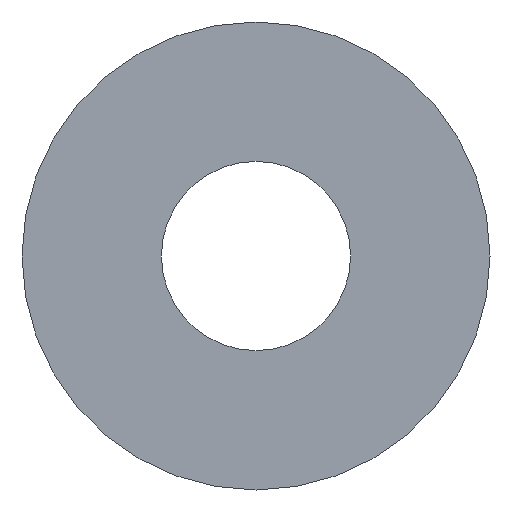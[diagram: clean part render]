
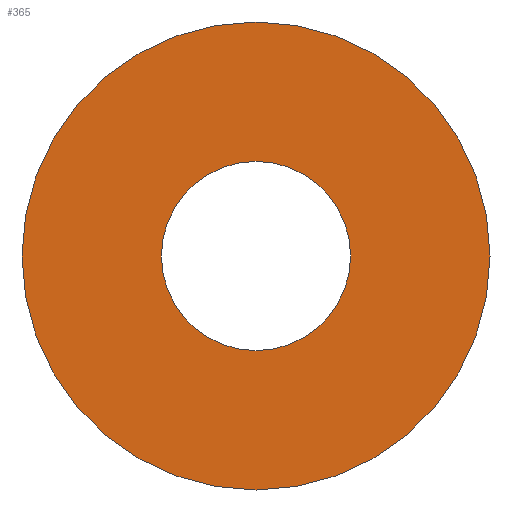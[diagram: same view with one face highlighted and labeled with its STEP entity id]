
A CAD part, front view. The second image highlights one B-rep face of the part: STEP entity #365.
In plain terms, the highlighted planar face has unit normal (0, -1, 0).
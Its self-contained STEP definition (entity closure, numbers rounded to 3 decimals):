
#68 = CIRCLE ( 'NONE', #1788, 9.5 ) ;
#93 = CARTESIAN_POINT ( 'NONE',  ( 0., -15.5, 23.5 ) ) ;
#220 = DIRECTION ( 'NONE',  ( 0., -1., 0. ) ) ;
#264 = CARTESIAN_POINT ( 'NONE',  ( 0., -15.5, 9.5 ) ) ;
#270 = PLANE ( 'NONE',  #959 ) ;
#365 = ADVANCED_FACE ( 'NONE', ( #608, #1120 ), #270, .F. ) ;
#386 = CIRCLE ( 'NONE', #2138, 9.5 ) ;
#396 = VERTEX_POINT ( 'NONE', #2312 ) ;
#436 = DIRECTION ( 'NONE',  ( 0., 0., -1. ) ) ;
#440 = DIRECTION ( 'NONE',  ( 0., 0., -1. ) ) ;
#455 = ORIENTED_EDGE ( 'NONE', *, *, #1563, .F. ) ;
#473 = DIRECTION ( 'NONE',  ( 0., 0., 1. ) ) ;
#586 = DIRECTION ( 'NONE',  ( 0., 0., -1. ) ) ;
#608 = FACE_BOUND ( 'NONE', #1432, .T. ) ;
#709 = VERTEX_POINT ( 'NONE', #803 ) ;
#803 = CARTESIAN_POINT ( 'NONE',  ( 0., -15.5, 9.5 ) ) ;
#806 = ORIENTED_EDGE ( 'NONE', *, *, #1358, .T. ) ;
#880 = CARTESIAN_POINT ( 'NONE',  ( 0., -15.5, -9.5 ) ) ;
#930 = DIRECTION ( 'NONE',  ( 0., 0., -1. ) ) ;
#959 = AXIS2_PLACEMENT_3D ( 'NONE', #264, #1292, #473 ) ;
#1060 = DIRECTION ( 'NONE',  ( 0., -1., 0. ) ) ;
#1120 = FACE_OUTER_BOUND ( 'NONE', #1299, .T. ) ;
#1250 = CARTESIAN_POINT ( 'NONE',  ( 0., -15.5, 0. ) ) ;
#1292 = DIRECTION ( 'NONE',  ( 0., 1., 0. ) ) ;
#1299 = EDGE_LOOP ( 'NONE', ( #1859, #806 ) ) ;
#1305 = AXIS2_PLACEMENT_3D ( 'NONE', #2296, #1060, #440 ) ;
#1358 = EDGE_CURVE ( 'NONE', #2584, #396, #1839, .T. ) ;
#1403 = DIRECTION ( 'NONE',  ( 0., -1., 0. ) ) ;
#1432 = EDGE_LOOP ( 'NONE', ( #1691, #455 ) ) ;
#1546 = CARTESIAN_POINT ( 'NONE',  ( 0., -15.5, 0. ) ) ;
#1563 = EDGE_CURVE ( 'NONE', #709, #1992, #386, .T. ) ;
#1619 = CARTESIAN_POINT ( 'NONE',  ( 0., -15.5, 0. ) ) ;
#1691 = ORIENTED_EDGE ( 'NONE', *, *, #2344, .F. ) ;
#1788 = AXIS2_PLACEMENT_3D ( 'NONE', #1619, #1403, #586 ) ;
#1839 = CIRCLE ( 'NONE', #1305, 23.5 ) ;
#1859 = ORIENTED_EDGE ( 'NONE', *, *, #2415, .T. ) ;
#1992 = VERTEX_POINT ( 'NONE', #880 ) ;
#2138 = AXIS2_PLACEMENT_3D ( 'NONE', #1546, #2382, #930 ) ;
#2296 = CARTESIAN_POINT ( 'NONE',  ( 0., -15.5, 0. ) ) ;
#2312 = CARTESIAN_POINT ( 'NONE',  ( 0., -15.5, -23.5 ) ) ;
#2344 = EDGE_CURVE ( 'NONE', #1992, #709, #68, .T. ) ;
#2382 = DIRECTION ( 'NONE',  ( 0., -1., 0. ) ) ;
#2415 = EDGE_CURVE ( 'NONE', #396, #2584, #2421, .T. ) ;
#2421 = CIRCLE ( 'NONE', #2522, 23.5 ) ;
#2522 = AXIS2_PLACEMENT_3D ( 'NONE', #1250, #220, #436 ) ;
#2584 = VERTEX_POINT ( 'NONE', #93 ) ;
